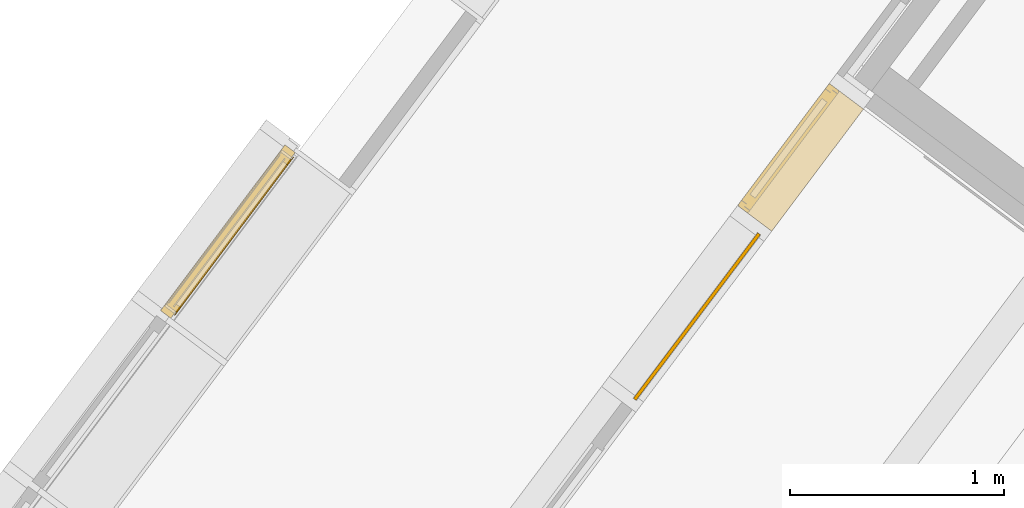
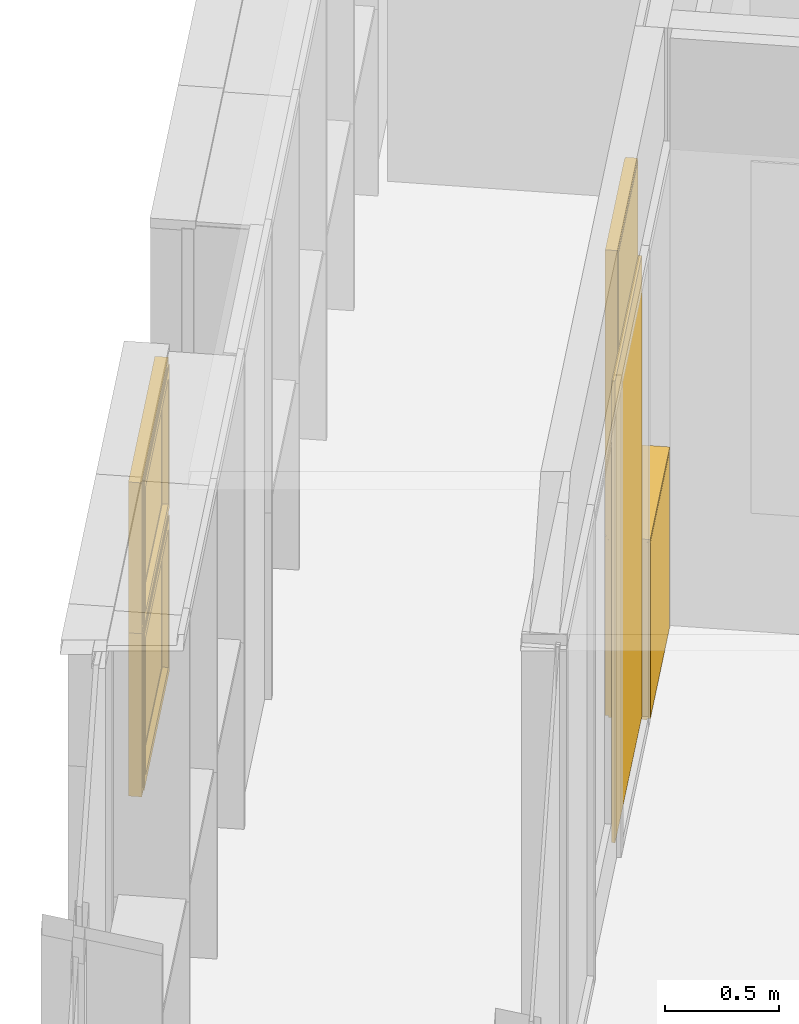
# One storey, part 203 of 243: 4 windows, 2 elements without a shape of their own.
"""IFC2X3 building model written with IfcOpenShell, lengths in metres."""

import ifcopenshell
import ifcopenshell.guid

model = None  # the IFC model being written
_history = None  # IfcOwnerHistory: only IFC2X3 demands one
_inside = {}  # id of a spatial element -> (the spatial element, [elements in it])
_under = {}  # id of a project, library or spatial element -> (it, [spatial elements below it])
_declared = {}  # id of a project -> (the project, [libraries it declares])
_typed = {}  # id of a type object -> (the type object, [elements of that type])
_made_of = {}  # id of a material, layer set ... -> (it, [elements and type objects made of it])


def new_model(schema):
    """Start an empty IFC model of exactly this schema.

    Asked for "IFC4X3", IfcOpenShell would pick the latest addendum, in which some entities
    have other attributes; the version numbers below select the first issue.
    IFC2X3 requires an IfcOwnerHistory on every rooted entity: one is made here for all.
    """
    global model, _history
    if schema == "IFC4X3":
        model = ifcopenshell.file(schema_version=(4, 3, 0, 0))
    else:
        model = ifcopenshell.file(schema=schema)
    _inside.clear()
    _under.clear()
    _declared.clear()
    _typed.clear()
    _made_of.clear()
    _history = None
    if model.schema == "IFC2X3":
        org = make("IfcOrganization", Name="unknown")
        user = make(
            "IfcPersonAndOrganization",
            ThePerson=make("IfcPerson", FamilyName="unknown"),
            TheOrganization=org,
        )
        app = make(
            "IfcApplication",
            ApplicationDeveloper=org,
            Version="unknown",
            ApplicationFullName="unknown",
            ApplicationIdentifier="unknown",
        )
        _history = make(
            "IfcOwnerHistory",
            OwningUser=user,
            OwningApplication=app,
            ChangeAction="ADDED",
            CreationDate=0,
        )
    return model


def make(cls, **values):
    """One entity of the class cls with the attributes given. An attribute that is None is left unset."""
    return model.create_entity(
        cls, **{name: value for name, value in values.items() if value is not None}
    )


def entity(cls, *values):
    """Any entity or typed value of the class cls, its attributes in the order of the schema. None: left unset."""
    e = model.create_entity(cls)
    for i, value in enumerate(values):
        if value is not None:
            e[i] = value
    return e


def rooted(cls, **values):
    """An entity with a GlobalId (a new one), such as an element, a storey or a relation."""
    return make(cls, GlobalId=ifcopenshell.guid.new(), OwnerHistory=_history, **values)


def si_unit(unit_type, name, prefix=None):
    """IfcSIUnit, for example si_unit("LENGTHUNIT", "METRE", prefix="MILLI")."""
    return make("IfcSIUnit", UnitType=unit_type, Prefix=prefix, Name=name)


def converted_unit(unit_type, name, factor, base, dimensions=None, offset=None):
    """IfcConversionBasedUnit, such as the inch: factor (a typed value) times the base unit."""
    return make(
        "IfcConversionBasedUnit"
        if offset is None
        else "IfcConversionBasedUnitWithOffset",
        ConversionOffset=offset,
        Dimensions=None
        if dimensions is None
        else entity("IfcDimensionalExponents", *dimensions),
        UnitType=unit_type,
        Name=name,
        ConversionFactor=make(
            "IfcMeasureWithUnit", ValueComponent=factor, UnitComponent=base
        ),
    )


def derived_unit(unit_type, elements):
    """IfcDerivedUnit: a product of units, each with its exponent."""
    return make(
        "IfcDerivedUnit",
        Elements=[
            make("IfcDerivedUnitElement", Unit=unit, Exponent=power)
            for unit, power in elements
        ],
        UnitType=unit_type,
    )


def assignment(units):
    """IfcUnitAssignment: the units of a project."""
    return None if units is None else make("IfcUnitAssignment", Units=units)


def point(xyz):
    """IfcCartesianPoint."""
    return None if xyz is None else make("IfcCartesianPoint", Coordinates=xyz)


def direction(xyz):
    """IfcDirection."""
    return None if xyz is None else make("IfcDirection", DirectionRatios=xyz)


def frame(location, z_axis=None, x_axis=None):
    """IfcAxis2Placement3D, a coordinate frame: its origin and axes. An axis left out is left unset."""
    return make(
        "IfcAxis2Placement3D",
        Location=point(location),
        Axis=direction(z_axis),
        RefDirection=direction(x_axis),
    )


def frame_2d(location, x_axis=None):
    """IfcAxis2Placement2D, a coordinate frame in the plane: its origin and x axis."""
    return make(
        "IfcAxis2Placement2D", Location=point(location), RefDirection=direction(x_axis)
    )


def origin():
    """The frame at (0, 0, 0) with its axes left unset."""
    return frame((0.0, 0.0, 0.0))


def origin_2d_with_axis():
    """The frame at (0, 0) in the plane with the x axis (1, 0) written out."""
    return frame_2d((0.0, 0.0), x_axis=(1.0, 0.0))


def place(relative_to, where):
    """IfcLocalPlacement: puts the frame where relative to a parent placement (None: the world)."""
    return make(
        "IfcLocalPlacement", PlacementRelTo=relative_to, RelativePlacement=where
    )


def context(
    kind, dimensions, precision=None, world=None, true_north=None, identifier=None
):
    """IfcGeometricRepresentationContext, for example the 3D "Model" context."""
    return make(
        "IfcGeometricRepresentationContext",
        ContextIdentifier=identifier,
        ContextType=kind,
        CoordinateSpaceDimension=dimensions,
        Precision=precision,
        WorldCoordinateSystem=world,
        TrueNorth=true_north,
    )


def subcontext(parent, identifier, kind, view, scale=None):
    """IfcGeometricRepresentationSubContext, for example "Body" below "Model"."""
    return make(
        "IfcGeometricRepresentationSubContext",
        ContextIdentifier=identifier,
        ContextType=kind,
        ParentContext=parent,
        TargetScale=scale,
        TargetView=view,
    )


def project(units=None, contexts=None):
    """IfcProject with its units and contexts."""
    return rooted(
        "IfcProject",
        Name="project",
        RepresentationContexts=contexts,
        UnitsInContext=assignment(units),
    )


def spatial(cls, under=None, at=None, **own):
    """A site, building, storey or space (cls), placed at a placement, below another one or the project."""
    s = rooted(cls, ObjectPlacement=at, **own)
    if under is not None:
        _under.setdefault(under.id(), (under, []))[1].append(s)
    return s


def profile(cls, at=None, kind="AREA", **sizes):
    """A parametric profile (cls). Its sizes go by their IFC names, for example OverallWidth=200.0."""
    return make(cls, ProfileType=kind, Position=at, **sizes)


def rectangle(**sizes):
    """IfcRectangleProfileDef."""
    return profile("IfcRectangleProfileDef", **sizes)


def extrude(swept, where, along, depth):
    """IfcExtrudedAreaSolid: the profile swept, set in the frame where, extruded along a direction by depth."""
    return make(
        "IfcExtrudedAreaSolid",
        SweptArea=swept,
        Position=where,
        ExtrudedDirection=direction(along),
        Depth=depth,
    )


def faces_of(points, faces, orient=None, outer=None):
    """IfcFace entities. A face is a list of loops; a loop is a list of indices into points, from 0.

    orient and outer hold one flag for each loop. By default every Orientation is true, the
    first loop of a face is its IfcFaceOuterBound and the others are IfcFaceBound.
    """
    made = []
    for i, loops in enumerate(faces):
        bounds = []
        for j, loop in enumerate(loops):
            is_outer = j == 0 if outer is None else outer[i][j]
            bounds.append(
                make(
                    "IfcFaceOuterBound" if is_outer else "IfcFaceBound",
                    Bound=make("IfcPolyLoop", Polygon=[points[k] for k in loop]),
                    Orientation=True if orient is None else orient[i][j],
                )
            )
        made.append(make("IfcFace", Bounds=bounds))
    return made


def faceted_brep(points, faces, orient=None, outer=None, voids=None):
    """IfcFacetedBrep: a solid bounded by flat faces; with voids (closed shells), ...WithVoids."""
    shared = [point(p) for p in points]
    hull = make("IfcClosedShell", CfsFaces=faces_of(shared, faces, orient, outer))
    if voids is None:
        return make("IfcFacetedBrep", Outer=hull)
    return make(
        "IfcFacetedBrepWithVoids",
        Outer=hull,
        Voids=[
            make(cls, CfsFaces=faces_of(shared, fs, o, b)) for cls, fs, o, b in voids
        ],
    )


def shape(context_of_items, identifier, shape_type, items):
    """IfcShapeRepresentation: the items that make up one representation, for example the "Body"."""
    return make(
        "IfcShapeRepresentation",
        ContextOfItems=context_of_items,
        RepresentationIdentifier=identifier,
        RepresentationType=shape_type,
        Items=items,
    )


def source(mapping_origin, context_of_items, identifier, shape_type, items):
    """IfcRepresentationMap: a shape defined once, which mapped items show again and again."""
    return make(
        "IfcRepresentationMap",
        MappingOrigin=mapping_origin,
        MappedRepresentation=shape(context_of_items, identifier, shape_type, items),
    )


def transform(
    local_origin,
    x_axis=None,
    y_axis=None,
    z_axis=None,
    scale=None,
    scale2=None,
    scale3=None,
    uniform=True,
):
    """IfcCartesianTransformationOperator3D, or its non-uniform kind. x_axis, y_axis, z_axis: its Axis1, 2, 3."""
    if uniform:
        return make(
            "IfcCartesianTransformationOperator3D",
            Axis1=direction(x_axis),
            Axis2=direction(y_axis),
            LocalOrigin=point(local_origin),
            Scale=scale,
            Axis3=direction(z_axis),
        )
    return make(
        "IfcCartesianTransformationOperator3DnonUniform",
        Axis1=direction(x_axis),
        Axis2=direction(y_axis),
        LocalOrigin=point(local_origin),
        Scale=scale,
        Axis3=direction(z_axis),
        Scale2=scale2,
        Scale3=scale3,
    )


def mapped(mapping_source, mapping_target):
    """IfcMappedItem: shows the shape of a source again, moved by a transform."""
    return make(
        "IfcMappedItem", MappingSource=mapping_source, MappingTarget=mapping_target
    )


def material(Name=None, Category=None):
    """IfcMaterial."""
    return make("IfcMaterial", Name=Name, Category=Category)


def material_list(materials):
    """IfcMaterialList."""
    return make("IfcMaterialList", Materials=materials)


def made_of(thing, what):
    """Note that an element or type object is made of a material, layer set ...; save() writes the relation."""
    if what is not None:
        _made_of.setdefault(what.id(), (what, []))[1].append(thing)
    return thing


def type_object(cls, material=None, **own):
    """A type object (cls), such as IfcWallType, which elements share."""
    return made_of(rooted(cls, **own), material)


def type_shapes(of_type, sources):
    """Give a type object the sources (RepresentationMaps) that its elements show as mapped items."""
    of_type.RepresentationMaps = sources


def element(
    cls,
    number,
    at=None,
    inside=None,
    cuts=None,
    type_object=None,
    material=None,
    context=None,
    identifier="Body",
    shape_type=None,
    held_by="IfcProductDefinitionShape",
    body=None,
    shapes=None,
    **own,
):
    """One element of the class cls, such as IfcWall. Its Tag is "e" and its number.

    at: its placement. inside: the storey or other place that contains it. cuts: it is an
    opening in that element (IfcRelVoidsElement). A single representation is given by context,
    identifier, shape_type and body (its items); several are given by shapes. held_by: the class
    of the entity that holds the representations. save() writes the other relations.
    """
    e = rooted(cls, Tag="e%d" % number, ObjectPlacement=at, **own)
    if body is not None:
        shapes = [shape(context, identifier, shape_type, body)]
    if shapes is not None:
        e.Representation = make(held_by, Representations=shapes)
    if inside is not None:
        _inside.setdefault(inside.id(), (inside, []))[1].append(e)
    if cuts is not None:
        rooted(
            "IfcRelVoidsElement", RelatingBuildingElement=cuts, RelatedOpeningElement=e
        )
    if type_object is not None:
        _typed.setdefault(type_object.id(), (type_object, []))[1].append(e)
    return made_of(e, material)


def aggregate(whole, parts):
    """IfcRelAggregates: a whole, such as a stair, and the parts it consists of."""
    return rooted("IfcRelAggregates", RelatingObject=whole, RelatedObjects=parts)


def save(model, path):
    """Write the relations noted so far, then the file.

    IfcRelAggregates (storeys below a building ...), IfcRelContainedInSpatialStructure (elements
    in a storey), IfcRelDefinesByType, IfcRelAssociatesMaterial and IfcRelDeclares: one each for
    every whole, place, type object, material and project.
    """
    for whole, parts in _under.values():
        aggregate(whole, parts)
    for where, things in _inside.values():
        rooted(
            "IfcRelContainedInSpatialStructure",
            RelatedElements=things,
            RelatingStructure=where,
        )
    for kind, things in _typed.values():
        rooted("IfcRelDefinesByType", RelatedObjects=things, RelatingType=kind)
    for what, things in _made_of.values():
        rooted("IfcRelAssociatesMaterial", RelatedObjects=things, RelatingMaterial=what)
    for by, libraries in _declared.values():
        rooted("IfcRelDeclares", RelatingContext=by, RelatedDefinitions=libraries)
    model.write(path)


model = new_model("IFC2X3")

# Units and contexts
model_context = context("Model", 3, precision=1e-05, world=origin(), true_north=direction((6.123031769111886e-17, 1.0)))
body_context = subcontext(model_context, "Body", "Model", "MODEL_VIEW")
ifc_project = project(units=[si_unit("LENGTHUNIT", "METRE"), si_unit("AREAUNIT", "SQUARE_METRE"), si_unit("VOLUMEUNIT", "CUBIC_METRE"), converted_unit("PLANEANGLEUNIT", "DEGREE", entity("IfcRatioMeasure", 0.017453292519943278), si_unit("PLANEANGLEUNIT", "RADIAN"), dimensions=[0, 0, 0, 0, 0, 0, 0]), si_unit("MASSUNIT", "GRAM", prefix="KILO"), derived_unit("MASSDENSITYUNIT", [(si_unit("MASSUNIT", "GRAM", prefix="KILO"), 1), (si_unit("LENGTHUNIT", "METRE"), -3)]), derived_unit("IONCONCENTRATIONUNIT", [(si_unit("MASSUNIT", "GRAM", prefix="KILO"), 1), (si_unit("LENGTHUNIT", "METRE"), -3)]), derived_unit("MOMENTOFINERTIAUNIT", [(si_unit("LENGTHUNIT", "METRE"), 4)]), si_unit("TIMEUNIT", "SECOND"), si_unit("FREQUENCYUNIT", "HERTZ"), si_unit("THERMODYNAMICTEMPERATUREUNIT", "DEGREE_CELSIUS"), derived_unit("THERMALTRANSMITTANCEUNIT", [(si_unit("MASSUNIT", "GRAM", prefix="KILO"), 1), (si_unit("THERMODYNAMICTEMPERATUREUNIT", "KELVIN"), -1), (si_unit("TIMEUNIT", "SECOND"), -3)]), derived_unit("THERMALCONDUCTANCEUNIT", [(si_unit("MASSUNIT", "GRAM", prefix="KILO"), 1), (si_unit("THERMODYNAMICTEMPERATUREUNIT", "KELVIN"), -1), (si_unit("TIMEUNIT", "SECOND"), -3), (si_unit("LENGTHUNIT", "METRE"), 1)]), derived_unit("VOLUMETRICFLOWRATEUNIT", [(si_unit("LENGTHUNIT", "METRE"), 3), (si_unit("TIMEUNIT", "SECOND"), -1)]), derived_unit("MASSFLOWRATEUNIT", [(si_unit("MASSUNIT", "GRAM", prefix="KILO"), 1), (si_unit("TIMEUNIT", "SECOND"), -1)]), derived_unit("ROTATIONALFREQUENCYUNIT", [(si_unit("TIMEUNIT", "SECOND"), -1)]), si_unit("ELECTRICCURRENTUNIT", "AMPERE"), si_unit("ELECTRICVOLTAGEUNIT", "VOLT"), si_unit("POWERUNIT", "WATT"), si_unit("FORCEUNIT", "NEWTON", prefix="KILO"), si_unit("ILLUMINANCEUNIT", "LUX"), si_unit("LUMINOUSFLUXUNIT", "LUMEN"), si_unit("LUMINOUSINTENSITYUNIT", "CANDELA"), derived_unit("USERDEFINED", [(si_unit("MASSUNIT", "GRAM", prefix="KILO"), -1), (si_unit("LENGTHUNIT", "METRE"), -2), (si_unit("TIMEUNIT", "SECOND"), 3), (si_unit("LUMINOUSFLUXUNIT", "LUMEN"), 1)]), derived_unit("USERDEFINED", [(si_unit("MASSUNIT", "GRAM", prefix="KILO"), 1), (si_unit("TIMEUNIT", "SECOND"), -3), (si_unit("LENGTHUNIT", "METRE"), 3), (si_unit("ELECTRICCURRENTUNIT", "AMPERE"), -2)]), derived_unit("SOUNDPOWERUNIT", [(si_unit("MASSUNIT", "GRAM", prefix="KILO"), 1), (si_unit("TIMEUNIT", "SECOND"), -3), (si_unit("LENGTHUNIT", "METRE"), 2)]), derived_unit("SOUNDPRESSUREUNIT", [(si_unit("MASSUNIT", "GRAM", prefix="KILO"), 1), (si_unit("LENGTHUNIT", "METRE"), -1), (si_unit("TIMEUNIT", "SECOND"), -2)]), derived_unit("LINEARVELOCITYUNIT", [(si_unit("LENGTHUNIT", "METRE"), 1), (si_unit("TIMEUNIT", "SECOND"), -1)]), si_unit("PRESSUREUNIT", "PASCAL"), derived_unit("USERDEFINED", [(si_unit("MASSUNIT", "GRAM", prefix="KILO"), 1), (si_unit("LENGTHUNIT", "METRE"), -2), (si_unit("TIMEUNIT", "SECOND"), -2)]), derived_unit("LINEARFORCEUNIT", [(si_unit("MASSUNIT", "GRAM", prefix="KILO"), 1), (si_unit("TIMEUNIT", "SECOND"), -2)]), derived_unit("PLANARFORCEUNIT", [(si_unit("MASSUNIT", "GRAM", prefix="KILO"), 1), (si_unit("LENGTHUNIT", "METRE"), -1), (si_unit("TIMEUNIT", "SECOND"), -2)]), derived_unit("SPECIFICHEATCAPACITYUNIT", [(si_unit("THERMODYNAMICTEMPERATUREUNIT", "KELVIN"), -1), (si_unit("LENGTHUNIT", "METRE"), 2), (si_unit("TIMEUNIT", "SECOND"), -2)]), derived_unit("HEATINGVALUEUNIT", [(si_unit("LENGTHUNIT", "METRE"), 2), (si_unit("TIMEUNIT", "SECOND"), -2)]), derived_unit("VAPORPERMEABILITYUNIT", [(si_unit("LENGTHUNIT", "METRE"), -1), (si_unit("TIMEUNIT", "SECOND"), 1)]), derived_unit("DYNAMICVISCOSITYUNIT", [(si_unit("MASSUNIT", "GRAM", prefix="KILO"), 1), (si_unit("TIMEUNIT", "SECOND"), -1), (si_unit("LENGTHUNIT", "METRE"), -1)]), derived_unit("THERMALEXPANSIONCOEFFICIENTUNIT", [(si_unit("THERMODYNAMICTEMPERATUREUNIT", "KELVIN"), -1)]), derived_unit("MODULUSOFELASTICITYUNIT", [(si_unit("MASSUNIT", "GRAM", prefix="KILO"), 1), (si_unit("LENGTHUNIT", "METRE"), -1), (si_unit("TIMEUNIT", "SECOND"), -2)]), derived_unit("ISOTHERMALMOISTURECAPACITYUNIT", [(si_unit("LENGTHUNIT", "METRE"), 3), (si_unit("MASSUNIT", "GRAM", prefix="KILO"), -1)]), derived_unit("MOISTUREDIFFUSIVITYUNIT", [(si_unit("TIMEUNIT", "SECOND"), -1), (si_unit("LENGTHUNIT", "METRE"), 2)])], contexts=[model_context])

# Site, building, storey
site_placement = place(None, frame((0.0, 0.0, 235.0), z_axis=(0.0, 0.0, 1.0), x_axis=(-0.7996477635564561, 0.6004693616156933, 0.0)))
site = spatial("IfcSite", under=ifc_project, at=site_placement, Name="Default", CompositionType="ELEMENT")
building_placement = place(site_placement, origin())
building = spatial("IfcBuilding", under=site, at=building_placement, CompositionType="ELEMENT")
storey_placement = place(building_placement, origin())
storey = spatial("IfcBuildingStorey", under=building, at=storey_placement, Name="P0- Escola", CompositionType="ELEMENT", Elevation=0.0)

# Curtain wall, windows
curtain_wall_type_1 = type_object("IfcCurtainWallType", Name="Muro cortina:MC- INT- a1", PredefinedType="NOTDEFINED")
curtain_wall_1_placement = place(storey_placement, origin())
curtain_wall_1 = element("IfcCurtainWall", 1, at=curtain_wall_1_placement, inside=storey, type_object=curtain_wall_type_1, Name="Muro cortina:MC- INT- a1", ObjectType="Muro cortina:MC- INT- a1")
ifc_material_1 = material(Name="_Vidre")
window_style_1 = type_object("IfcWindowStyle", Name="MC- Fusta- vidre fix:MC- Fusta- vidre fix", ConstructionType="NOTDEFINED", OperationType="NOTDEFINED", ParameterTakesPrecedence=False, Sizeable=False, material=ifc_material_1)
shared_shape_1 = source(origin(), body_context, "Body", "SweptSolid", [
    extrude(rectangle(XDim=0.9699999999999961, YDim=0.015999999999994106, at=origin_2d_with_axis()), frame((0.0, 0.0, 0.0), z_axis=(0.0, 0.0, 1.0), x_axis=(-1.0, 0.0, 0.0)), (0.0, 0.0, 1.0), 2.475),
])
type_shapes(window_style_1, [shared_shape_1])
window_1_placement = place(curtain_wall_1_placement, frame((72.72014768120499, -34.91518997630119, 0.045000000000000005), z_axis=(0.0, 0.0, 1.0), x_axis=(0.0, -1.0, 0.0)))
window_1 = element("IfcWindow", 2, at=window_1_placement, type_object=window_style_1, material=ifc_material_1, Name="MC- Fusta- vidre fix:MC- Fusta- vidre fix", ObjectType="MC- Fusta- vidre fix:MC- Fusta- vidre fix", OverallHeight=2.475, OverallWidth=0.9699999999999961, context=body_context, shape_type="MappedRepresentation", body=[
    mapped(shared_shape_1, transform((0.0, 0.0, 0.0), scale=1.0)),
])
ifc_material_2 = material(Name="_Fusta massisa- T1-  REV- PAV")
ifc_material_3 = material(Name="_Aillament")
ifc_material_list_1 = material_list([ifc_material_2, ifc_material_3])
window_style_2 = type_object("IfcWindowStyle", Name="MC- Fusta- Finestra ventilacio interior- Enva- Sencer:MC- Fusta- Finestra ventilacio interior- Enva- Sencer", ConstructionType="NOTDEFINED", OperationType="NOTDEFINED", ParameterTakesPrecedence=False, Sizeable=False, material=ifc_material_list_1)
shared_shape_2 = source(origin(), body_context, "Body", "Brep", [
    faceted_brep([(-0.2805000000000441, 0.145000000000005, 2.428), (-0.28050000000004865, 0.14500000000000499, 1.0449999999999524), (0.28050000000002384, 0.1450000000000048, 1.0449999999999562), (0.2805000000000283, 0.14500000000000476, 2.428000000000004), (0.2805000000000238, 0.11500000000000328, 1.0449999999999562), (0.2805000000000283, 0.11500000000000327, 2.428000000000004), (-0.2805000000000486, 0.1150000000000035, 1.0449999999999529), (-0.2805000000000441, 0.11500000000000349, 2.428), (0.3255000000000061, 0.15999999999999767, 2.4730000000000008), (0.3255000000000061, 0.1300000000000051, 2.4730000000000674), (0.3255000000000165, 0.13000000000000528, 1.0), (0.3255000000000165, 0.16000000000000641, 1.0), (-0.32550000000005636, 0.13000000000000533, 1.0), (-0.32550000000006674, 0.12999999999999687, 2.4729999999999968), (-0.32550000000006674, 0.15999999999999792, 2.4729999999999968), (-0.32550000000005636, 0.16000000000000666, 1.0), (0.3405000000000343, 0.12999999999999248, 0.9850000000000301), (-0.3405000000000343, 0.12999999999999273, 0.9850000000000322), (-0.3405000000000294, 0.13000000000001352, 2.4880000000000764), (0.34050000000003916, 0.13000000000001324, 2.4880000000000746), (0.34050000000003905, 0.10000000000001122, 2.4880000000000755), (-0.34050000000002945, 0.1000000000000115, 2.4880000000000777), (-0.34050000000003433, 0.09999999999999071, 0.9850000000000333), (0.3405000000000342, 0.09999999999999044, 0.9850000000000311)], [[[0, 1, 2, 3]], [[3, 2, 4, 5]], [[5, 4, 6, 7]], [[1, 0, 7, 6]], [[8, 9, 10, 11]], [[12, 13, 14, 15]], [[13, 9, 8, 14]], [[8, 11, 15, 14]], [[0, 3, 5, 7]], [[2, 1, 6, 4]], [[11, 10, 12, 15]], [[9, 13, 12, 10], [16, 17, 18, 19]], [[20, 21, 22, 23]], [[20, 19, 18, 21]], [[16, 19, 20, 23]], [[18, 17, 22, 21]], [[16, 23, 22, 17]]], outer=[[True], [True], [True], [True], [True], [True], [True], [True], [True], [True], [True], [False, True], [True], [True], [True], [True], [True]]),
    faceted_brep([(0.3575000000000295, 0.10400000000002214, 2.5050000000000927), (0.35750000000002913, 0.1040000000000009, 0.9679999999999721), (0.3575000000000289, 0.15600000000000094, 0.9679999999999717), (0.3575000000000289, 0.1560000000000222, 2.5050000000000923), (0.3525000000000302, 0.15600000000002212, 2.500000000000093), (-0.35250000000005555, 0.15600000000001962, 2.500000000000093), (-0.35250000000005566, 0.1559999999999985, 0.9729999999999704), (0.3525000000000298, 0.15600000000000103, 0.9729999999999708), (-0.35750000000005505, 0.15600000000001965, 2.5050000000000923), (-0.3575000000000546, 0.15599999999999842, 0.9679999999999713), (-0.3575000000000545, 0.10399999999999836, 0.9679999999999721), (-0.3575000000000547, 0.1040000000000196, 2.5050000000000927), (-0.3525000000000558, 0.10400000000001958, 2.5000000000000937), (0.35250000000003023, 0.10400000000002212, 2.5000000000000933), (0.3525000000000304, 0.10400000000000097, 0.972999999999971), (-0.35250000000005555, 0.10399999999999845, 0.972999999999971), (0.35250000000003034, 0.1000000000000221, 2.5000000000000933), (0.3525000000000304, 0.100000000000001, 0.972999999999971), (-0.35250000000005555, 0.09999999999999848, 0.9729999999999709), (-0.3525000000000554, 0.1000000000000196, 2.5000000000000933), (-0.3425000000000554, 0.1000000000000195, 2.4900000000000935), (0.34250000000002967, 0.1000000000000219, 2.490000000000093), (0.34250000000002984, 0.10000000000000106, 0.9829999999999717), (-0.34250000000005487, 0.09999999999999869, 0.9829999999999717), (0.3425000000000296, 0.13000000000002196, 2.490000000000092), (0.3425000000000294, 0.13000000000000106, 0.9829999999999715), (-0.342500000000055, 0.12999999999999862, 0.9829999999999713), (-0.34250000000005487, 0.13000000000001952, 2.490000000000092), (-0.3275000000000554, 0.13000000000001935, 2.475000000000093), (0.32750000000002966, 0.13000000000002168, 2.4750000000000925), (0.32750000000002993, 0.13000000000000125, 0.9979999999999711), (-0.3275000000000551, 0.1299999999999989, 0.9979999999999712), (0.3275000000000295, 0.16000000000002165, 2.475000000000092), (0.3275000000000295, 0.16000000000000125, 0.9979999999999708), (-0.32750000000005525, 0.15999999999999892, 0.9979999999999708), (-0.32750000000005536, 0.16000000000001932, 2.4750000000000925), (-0.3525000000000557, 0.16000000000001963, 2.500000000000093), (0.3525000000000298, 0.16000000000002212, 2.5000000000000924), (0.35250000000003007, 0.16000000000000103, 0.9729999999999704), (-0.3525000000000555, 0.1599999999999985, 0.9729999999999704)], [[[0, 1, 2, 3]], [[4, 5, 6, 7], [8, 3, 2, 9]], [[1, 10, 9, 2]], [[0, 11, 10, 1], [12, 13, 14, 15]], [[16, 17, 14, 13]], [[17, 18, 15, 14]], [[16, 19, 18, 17], [20, 21, 22, 23]], [[24, 25, 22, 21]], [[25, 26, 23, 22]], [[24, 27, 26, 25], [28, 29, 30, 31]], [[32, 33, 30, 29]], [[33, 34, 31, 30]], [[32, 35, 34, 33], [36, 37, 38, 39]], [[4, 7, 38, 37]], [[7, 6, 39, 38]], [[10, 11, 8, 9]], [[18, 19, 12, 15]], [[26, 27, 20, 23]], [[34, 35, 28, 31]], [[6, 5, 36, 39]], [[11, 0, 3, 8]], [[19, 16, 13, 12]], [[27, 24, 21, 20]], [[35, 32, 29, 28]], [[5, 4, 37, 36]]], outer=[[True], [False, True], [True], [True, False], [True], [True], [True, False], [True], [True], [True, False], [True], [True], [False, True], [True], [True], [True], [True], [True], [True], [True], [True], [True], [True], [True], [True]]),
    faceted_brep([(-0.35250000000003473, 0.14500000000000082, 0.005000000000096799), (0.35250000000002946, 0.14500000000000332, 0.005000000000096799), (0.35250000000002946, 0.14500000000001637, 0.9480000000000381), (-0.35250000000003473, 0.14500000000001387, 0.9480000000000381), (-0.3525000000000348, 0.15999999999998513, 0.005000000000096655), (-0.3525000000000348, 0.15999999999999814, 0.9480000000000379), (0.3525000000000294, 0.16000000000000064, 0.9480000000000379), (0.3525000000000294, 0.15999999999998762, 0.005000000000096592)], [[[0, 1, 2, 3]], [[4, 5, 6, 7]], [[7, 1, 0, 4]], [[6, 2, 1, 7]], [[5, 3, 2, 6]], [[4, 0, 3, 5]]]),
    faceted_brep([(-0.3525000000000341, -0.039999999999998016, 0.005000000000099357), (0.35250000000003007, -0.03999999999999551, 0.005000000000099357), (0.35250000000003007, -0.03999999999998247, 0.9480000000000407), (-0.3525000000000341, -0.03999999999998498, 0.9480000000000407), (-0.3525000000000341, -0.025000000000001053, 0.005000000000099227), (-0.3525000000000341, -0.02499999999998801, 0.9480000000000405), (0.35250000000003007, -0.024999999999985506, 0.9480000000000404), (0.35250000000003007, -0.024999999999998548, 0.00500000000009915)], [[[0, 1, 2, 3]], [[4, 5, 6, 7]], [[7, 1, 0, 4]], [[6, 2, 1, 7]], [[5, 3, 2, 6]], [[4, 0, 3, 5]]]),
    faceted_brep([(-0.3575000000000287, -0.025000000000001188, 0.0), (0.35750000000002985, -0.024999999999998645, 0.0), (0.35750000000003, -0.024999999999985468, 0.9530000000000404), (-0.3575000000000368, -0.02499999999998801, 0.9530000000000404), (-0.3575000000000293, 0.14500000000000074, 0.0), (-0.3575000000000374, 0.14500000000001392, 0.9530000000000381), (0.3575000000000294, 0.14500000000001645, 0.9530000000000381), (0.35750000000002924, 0.1450000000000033, 0.0)], [[[0, 1, 2, 3]], [[4, 5, 6, 7]], [[7, 1, 0, 4]], [[6, 2, 1, 7]], [[5, 3, 2, 6]], [[4, 0, 3, 5]]]),
    faceted_brep([(-0.3575000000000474, 0.15999999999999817, 0.9530000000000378), (-0.3575000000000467, -0.04000000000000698, 0.9530000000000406), (-0.3575000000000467, -0.04000000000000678, 0.9680000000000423), (-0.3575000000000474, 0.15999999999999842, 0.9680000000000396), (0.35750000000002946, 0.16000000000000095, 0.9680000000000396), (0.3575000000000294, 0.16000000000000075, 0.9530000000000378), (0.3575000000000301, -0.04000000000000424, 0.9680000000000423), (0.3575000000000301, -0.04000000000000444, 0.9530000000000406)], [[[0, 1, 2, 3]], [[3, 4, 5, 0]], [[2, 6, 4, 3]], [[1, 7, 6, 2]], [[0, 5, 7, 1]], [[5, 4, 6, 7]]]),
])
type_shapes(window_style_2, [shared_shape_2])
window_2_placement = place(curtain_wall_1_placement, frame((72.72014768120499, -35.80268997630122, 0.0), z_axis=(0.0, 0.0, 1.0), x_axis=(0.0, -1.0, 0.0)))
window_2 = element("IfcWindow", 3, at=window_2_placement, type_object=window_style_2, material=ifc_material_list_1, Name="MC- Fusta- Finestra ventilacio interior- Enva- Sencer:MC- Fusta- Finestra ventilacio interior- Enva- Sencer", ObjectType="MC- Fusta- Finestra ventilacio interior- Enva- Sencer:MC- Fusta- Finestra ventilacio interior- Enva- Sencer", OverallHeight=2.5050000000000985, OverallWidth=0.715000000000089, context=body_context, shape_type="MappedRepresentation", body=[
    mapped(shared_shape_2, transform((0.0, 0.0, 0.0), scale=1.0)),
])
aggregate(curtain_wall_1, [window_1, window_2])

curtain_wall_type_2 = type_object("IfcCurtainWallType", Name="Muro cortina:MC- EXT- MC5", PredefinedType="NOTDEFINED")
curtain_wall_2_placement = place(storey_placement, origin())
curtain_wall_2 = element("IfcCurtainWall", 4, at=curtain_wall_2_placement, inside=storey, type_object=curtain_wall_type_2, Name="Muro cortina:MC- EXT- MC5", ObjectType="Muro cortina:MC- EXT- MC5")
ifc_material_4 = material(Name="_Alumini- T1- Perfil")
ifc_material_list_2 = material_list([ifc_material_1, ifc_material_4])
window_style_3 = type_object("IfcWindowStyle", Name="MC- Alu- Conjunt finestra basculant- 68x68 cm:MC- Alu- Conjunt finestra basculant- 68x68 cm", ConstructionType="NOTDEFINED", OperationType="NOTDEFINED", ParameterTakesPrecedence=False, Sizeable=False, material=ifc_material_list_2)
shared_shape_3 = source(origin(), body_context, "Body", "Brep", [
    faceted_brep([(-0.43291170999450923, -0.03559830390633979, 0.051999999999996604), (-0.43291170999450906, -0.011598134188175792, 0.051999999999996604), (0.43291170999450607, -0.011598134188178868, 0.051999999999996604), (0.43291170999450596, -0.03559830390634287, 0.051999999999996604), (-0.43291170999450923, -0.03559830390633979, 0.8228027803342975), (-0.4329117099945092, -0.011598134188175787, 0.8228027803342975), (0.43291170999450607, -0.011598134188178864, 0.8228027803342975), (0.43291170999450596, -0.03559830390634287, 0.8228027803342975)], [[[0, 1, 2, 3]], [[4, 5, 1, 0]], [[5, 6, 2, 1]], [[6, 7, 3, 2]], [[7, 4, 0, 3]], [[4, 7, 6, 5]]]),
    faceted_brep([(0.4172108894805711, -0.009998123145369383, 0.8071019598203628), (0.4172108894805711, -0.007998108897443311, 0.8071019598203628), (0.4172108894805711, -0.007998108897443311, 0.06789804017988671), (0.4172108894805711, -0.009998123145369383, 0.06789804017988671), (0.44610892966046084, -0.007998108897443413, 0.8360000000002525), (0.44610892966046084, -0.007998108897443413, 0.03899999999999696), (-0.44610892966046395, -0.007998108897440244, 0.03899999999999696), (-0.44610892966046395, -0.007998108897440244, 0.8360000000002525), (-0.4172108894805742, -0.007998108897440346, 0.8071019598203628), (-0.4172108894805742, -0.007998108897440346, 0.06789804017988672), (-0.4172108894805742, -0.009998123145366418, 0.06789804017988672), (-0.4172108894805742, -0.009998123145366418, 0.8071019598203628), (-0.4329117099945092, -0.00999812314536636, 0.8228027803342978), (-0.4329117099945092, -0.009998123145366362, 0.05219721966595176), (0.43291170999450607, -0.009998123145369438, 0.052197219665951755), (0.43291170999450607, -0.009998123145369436, 0.8228027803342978), (0.4329117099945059, -0.04079986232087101, 0.8228027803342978), (0.4329117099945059, -0.04079986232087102, 0.052197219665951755), (-0.4329117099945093, -0.04079986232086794, 0.05219721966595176), (-0.4329117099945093, -0.04079986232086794, 0.8228027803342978), (-0.41721088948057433, -0.040799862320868, 0.8071019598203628), (-0.41721088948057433, -0.040799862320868, 0.06789804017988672), (0.41721088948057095, -0.04079986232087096, 0.06789804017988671), (0.41721088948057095, -0.04079986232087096, 0.8071019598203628), (0.41721088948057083, -0.06800005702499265, 0.8071019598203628), (0.4172108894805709, -0.06800005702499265, 0.06789804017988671), (-0.4172108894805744, -0.0680000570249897, 0.06789804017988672), (-0.4172108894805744, -0.0680000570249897, 0.8071019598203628), (-0.4636128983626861, -0.06800005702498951, 0.8535039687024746), (-0.4636128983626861, -0.06800005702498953, 0.021496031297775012), (0.4636128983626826, -0.06800005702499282, 0.021496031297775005), (0.4636128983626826, -0.06800005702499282, 0.8535039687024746), (0.4636128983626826, -0.0645000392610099, 0.8535039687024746), (0.4636128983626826, -0.0645000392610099, 0.021496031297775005), (-0.4636128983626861, -0.06450003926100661, 0.021496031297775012), (-0.4636128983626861, -0.06450003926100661, 0.8535039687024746), (-0.44610892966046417, -0.06450003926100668, 0.8360000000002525), (-0.44610892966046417, -0.06450003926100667, 0.03899999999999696), (0.4461089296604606, -0.06450003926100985, 0.038999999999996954), (0.4461089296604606, -0.06450003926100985, 0.8360000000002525)], [[[0, 1, 2, 3]], [[4, 5, 6, 7], [8, 9, 2, 1]], [[3, 2, 9, 10]], [[0, 3, 10, 11], [12, 13, 14, 15]], [[16, 15, 14, 17]], [[17, 14, 13, 18]], [[16, 17, 18, 19], [20, 21, 22, 23]], [[24, 23, 22, 25]], [[25, 22, 21, 26]], [[24, 25, 26, 27], [28, 29, 30, 31]], [[32, 31, 30, 33]], [[33, 30, 29, 34]], [[32, 33, 34, 35], [36, 37, 38, 39]], [[4, 39, 38, 5]], [[5, 38, 37, 6]], [[10, 9, 8, 11]], [[18, 13, 12, 19]], [[26, 21, 20, 27]], [[34, 29, 28, 35]], [[6, 37, 36, 7]], [[11, 8, 1, 0]], [[19, 12, 15, 16]], [[27, 20, 23, 24]], [[35, 28, 31, 32]], [[7, 36, 39, 4]]], outer=[[True], [True, False], [True], [False, True], [True], [True], [True, False], [True], [True], [False, True], [True], [True], [True, False], [True], [True], [True], [True], [True], [True], [True], [True], [True], [True], [True], [True]]),
    faceted_brep([(-0.42219318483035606, 0.0, 0.8121931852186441), (-0.42219318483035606, -0.0040000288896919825, 0.8121931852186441), (-0.422193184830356, -0.0040000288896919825, 0.06280681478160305), (-0.42219318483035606, 0.0, 0.06280681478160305), (-0.4575998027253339, -0.0040000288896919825, 0.847599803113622), (-0.4575998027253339, -0.0040000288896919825, 0.027400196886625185), (0.4575998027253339, -0.0040000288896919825, 0.027400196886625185), (0.4575998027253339, -0.0040000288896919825, 0.847599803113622), (0.422193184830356, -0.0040000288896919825, 0.812193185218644), (0.42219318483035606, -0.0040000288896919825, 0.06280681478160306), (0.42219318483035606, 0.0, 0.06280681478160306), (0.42219318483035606, 0.0, 0.8121931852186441), (0.4849999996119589, 0.0, 0.8750000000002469), (0.48499999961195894, 0.0, 0.0), (-0.4849999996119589, 0.0, 0.0), (-0.48499999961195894, 0.0, 0.8750000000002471), (-0.48499999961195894, -0.05999999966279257, 0.8750000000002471), (-0.48499999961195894, -0.05999999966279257, 0.0), (0.48499999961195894, -0.05999999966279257, 0.0), (0.48499999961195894, -0.05999999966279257, 0.8750000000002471), (0.45759980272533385, -0.05999999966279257, 0.8475998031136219), (0.4575998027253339, -0.05999999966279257, 0.027400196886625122), (-0.45759980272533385, -0.05999999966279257, 0.027400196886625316), (-0.4575998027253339, -0.05999999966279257, 0.847599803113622)], [[[0, 1, 2, 3]], [[4, 5, 6, 7], [8, 9, 2, 1]], [[3, 2, 9, 10]], [[0, 3, 10, 11], [12, 13, 14, 15]], [[16, 15, 14, 17]], [[17, 14, 13, 18]], [[16, 17, 18, 19], [20, 21, 22, 23]], [[4, 23, 22, 5]], [[5, 22, 21, 6]], [[10, 9, 8, 11]], [[18, 13, 12, 19]], [[6, 21, 20, 7]], [[11, 8, 1, 0]], [[19, 12, 15, 16]], [[7, 20, 23, 4]]], outer=[[True], [True, False], [True], [False, True], [True], [True], [True, False], [True], [True], [True], [True], [True], [True], [True], [True]]),
])
type_shapes(window_style_3, [shared_shape_3])
window_3_placement = place(curtain_wall_2_placement, frame((74.74514768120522, -33.91519175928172, 0.8200000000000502), z_axis=(0.0, 0.0, 1.0), x_axis=(0.0, -1.0, 0.0)))
window_3 = element("IfcWindow", 5, at=window_3_placement, type_object=window_style_3, material=ifc_material_list_2, Name="MC- Alu- Conjunt finestra basculant- 68x68 cm:MC- Alu- Conjunt finestra basculant- 68x68 cm", ObjectType="MC- Alu- Conjunt finestra basculant- 68x68 cm:MC- Alu- Conjunt finestra basculant- 68x68 cm", OverallHeight=0.8750000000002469, OverallWidth=0.9699999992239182, context=body_context, shape_type="MappedRepresentation", body=[
    mapped(shared_shape_3, transform((0.0, 0.0, 0.0), scale=1.0)),
])
window_style_4 = type_object("IfcWindowStyle", Name="MC- Alu- Conjunt finestra basculant- 68x68 cm:MC- Alu- Conjunt finestra basculant- 68x68 cm", ConstructionType="NOTDEFINED", OperationType="NOTDEFINED", ParameterTakesPrecedence=False, Sizeable=False, material=ifc_material_list_2)
shared_shape_4 = source(origin(), body_context, "Body", "Brep", [
    faceted_brep([(-0.43291170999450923, -0.03559830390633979, 0.051999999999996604), (-0.43291170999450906, -0.011598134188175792, 0.051999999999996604), (0.43291170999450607, -0.011598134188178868, 0.051999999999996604), (0.43291170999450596, -0.03559830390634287, 0.051999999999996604), (-0.43291170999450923, -0.03559830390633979, 0.7565527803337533), (-0.4329117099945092, -0.011598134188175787, 0.7565527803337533), (0.43291170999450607, -0.011598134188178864, 0.7565527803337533), (0.43291170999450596, -0.03559830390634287, 0.7565527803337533)], [[[0, 1, 2, 3]], [[4, 5, 1, 0]], [[5, 6, 2, 1]], [[6, 7, 3, 2]], [[7, 4, 0, 3]], [[4, 7, 6, 5]]]),
    faceted_brep([(0.4172108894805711, -0.009998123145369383, 0.7408519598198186), (0.4172108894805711, -0.007998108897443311, 0.7408519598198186), (0.4172108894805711, -0.007998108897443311, 0.06789804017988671), (0.4172108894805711, -0.009998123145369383, 0.06789804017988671), (0.44610892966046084, -0.007998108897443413, 0.7697499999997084), (0.44610892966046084, -0.007998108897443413, 0.03899999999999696), (-0.44610892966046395, -0.007998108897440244, 0.03899999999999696), (-0.44610892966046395, -0.007998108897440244, 0.7697499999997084), (-0.4172108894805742, -0.007998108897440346, 0.7408519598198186), (-0.4172108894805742, -0.007998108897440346, 0.06789804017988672), (-0.4172108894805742, -0.009998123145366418, 0.06789804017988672), (-0.4172108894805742, -0.009998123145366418, 0.7408519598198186), (-0.4329117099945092, -0.00999812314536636, 0.7565527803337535), (-0.4329117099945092, -0.009998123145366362, 0.05219721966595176), (0.43291170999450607, -0.009998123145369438, 0.052197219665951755), (0.43291170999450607, -0.009998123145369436, 0.7565527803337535), (0.4329117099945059, -0.04079986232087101, 0.7565527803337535), (0.4329117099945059, -0.04079986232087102, 0.052197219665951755), (-0.4329117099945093, -0.04079986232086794, 0.05219721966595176), (-0.4329117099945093, -0.04079986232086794, 0.7565527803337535), (-0.41721088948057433, -0.040799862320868, 0.7408519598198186), (-0.41721088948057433, -0.040799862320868, 0.06789804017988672), (0.41721088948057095, -0.04079986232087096, 0.06789804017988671), (0.41721088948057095, -0.04079986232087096, 0.7408519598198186), (0.41721088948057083, -0.06800005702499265, 0.7408519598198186), (0.4172108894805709, -0.06800005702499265, 0.06789804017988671), (-0.4172108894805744, -0.0680000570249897, 0.06789804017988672), (-0.4172108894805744, -0.0680000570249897, 0.7408519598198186), (-0.4636128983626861, -0.06800005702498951, 0.7872539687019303), (-0.4636128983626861, -0.06800005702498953, 0.021496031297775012), (0.4636128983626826, -0.06800005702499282, 0.021496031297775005), (0.4636128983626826, -0.06800005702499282, 0.7872539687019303), (0.4636128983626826, -0.0645000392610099, 0.7872539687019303), (0.4636128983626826, -0.0645000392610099, 0.021496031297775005), (-0.4636128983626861, -0.06450003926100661, 0.021496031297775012), (-0.4636128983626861, -0.06450003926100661, 0.7872539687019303), (-0.44610892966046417, -0.06450003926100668, 0.7697499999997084), (-0.44610892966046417, -0.06450003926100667, 0.03899999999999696), (0.4461089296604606, -0.06450003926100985, 0.038999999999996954), (0.4461089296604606, -0.06450003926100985, 0.7697499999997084)], [[[0, 1, 2, 3]], [[4, 5, 6, 7], [8, 9, 2, 1]], [[3, 2, 9, 10]], [[0, 3, 10, 11], [12, 13, 14, 15]], [[16, 15, 14, 17]], [[17, 14, 13, 18]], [[16, 17, 18, 19], [20, 21, 22, 23]], [[24, 23, 22, 25]], [[25, 22, 21, 26]], [[24, 25, 26, 27], [28, 29, 30, 31]], [[32, 31, 30, 33]], [[33, 30, 29, 34]], [[32, 33, 34, 35], [36, 37, 38, 39]], [[4, 39, 38, 5]], [[5, 38, 37, 6]], [[10, 9, 8, 11]], [[18, 13, 12, 19]], [[26, 21, 20, 27]], [[34, 29, 28, 35]], [[6, 37, 36, 7]], [[11, 8, 1, 0]], [[19, 12, 15, 16]], [[27, 20, 23, 24]], [[35, 28, 31, 32]], [[7, 36, 39, 4]]], outer=[[True], [True, False], [True], [False, True], [True], [True], [True, False], [True], [True], [False, True], [True], [True], [True, False], [True], [True], [True], [True], [True], [True], [True], [True], [True], [True], [True], [True]]),
    faceted_brep([(-0.42219318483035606, 0.0, 0.7459431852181), (-0.42219318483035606, -0.0040000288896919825, 0.7459431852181), (-0.422193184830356, -0.0040000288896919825, 0.06280681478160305), (-0.42219318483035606, 0.0, 0.06280681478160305), (-0.4575998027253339, -0.0040000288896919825, 0.7813498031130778), (-0.4575998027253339, -0.0040000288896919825, 0.027400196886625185), (0.4575998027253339, -0.0040000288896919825, 0.027400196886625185), (0.4575998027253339, -0.0040000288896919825, 0.7813498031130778), (0.422193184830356, -0.0040000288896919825, 0.7459431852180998), (0.42219318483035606, -0.0040000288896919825, 0.06280681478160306), (0.42219318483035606, 0.0, 0.06280681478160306), (0.42219318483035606, 0.0, 0.7459431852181), (0.48499999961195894, 0.0, 0.8087499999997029), (0.48499999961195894, 0.0, 0.0), (-0.48499999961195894, 0.0, 0.0), (-0.48499999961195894, 0.0, 0.8087499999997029), (-0.48499999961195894, -0.05999999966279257, 0.8087499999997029), (-0.48499999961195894, -0.05999999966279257, 0.0), (0.48499999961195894, -0.05999999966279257, 0.0), (0.48499999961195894, -0.05999999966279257, 0.8087499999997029), (0.4575998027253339, -0.05999999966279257, 0.7813498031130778), (0.4575998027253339, -0.05999999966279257, 0.027400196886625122), (-0.4575998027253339, -0.05999999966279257, 0.02740019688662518), (-0.4575998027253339, -0.05999999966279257, 0.7813498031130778)], [[[0, 1, 2, 3]], [[4, 5, 6, 7], [8, 9, 2, 1]], [[3, 2, 9, 10]], [[0, 3, 10, 11], [12, 13, 14, 15]], [[16, 15, 14, 17]], [[17, 14, 13, 18]], [[16, 17, 18, 19], [20, 21, 22, 23]], [[4, 23, 22, 5]], [[5, 22, 21, 6]], [[10, 9, 8, 11]], [[18, 13, 12, 19]], [[6, 21, 20, 7]], [[11, 8, 1, 0]], [[19, 12, 15, 16]], [[7, 20, 23, 4]]], outer=[[True], [True, False], [True], [False, True], [True], [True], [True, False], [True], [True], [True], [True], [True], [True], [True], [True]]),
])
type_shapes(window_style_4, [shared_shape_4])
window_4_placement = place(curtain_wall_2_placement, frame((74.74514768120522, -33.915191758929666, 1.6950000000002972), z_axis=(0.0, 0.0, 1.0), x_axis=(0.0, -1.0, 0.0)))
window_4 = element("IfcWindow", 6, at=window_4_placement, type_object=window_style_4, material=ifc_material_list_2, Name="MC- Alu- Conjunt finestra basculant- 68x68 cm:MC- Alu- Conjunt finestra basculant- 68x68 cm", ObjectType="MC- Alu- Conjunt finestra basculant- 68x68 cm:MC- Alu- Conjunt finestra basculant- 68x68 cm", OverallHeight=0.8087499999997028, OverallWidth=0.9699999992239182, context=body_context, shape_type="MappedRepresentation", body=[
    mapped(shared_shape_4, transform((0.0, 0.0, 0.0), scale=1.0)),
])
aggregate(curtain_wall_2, [window_3, window_4])

save(model, "model.ifc")
